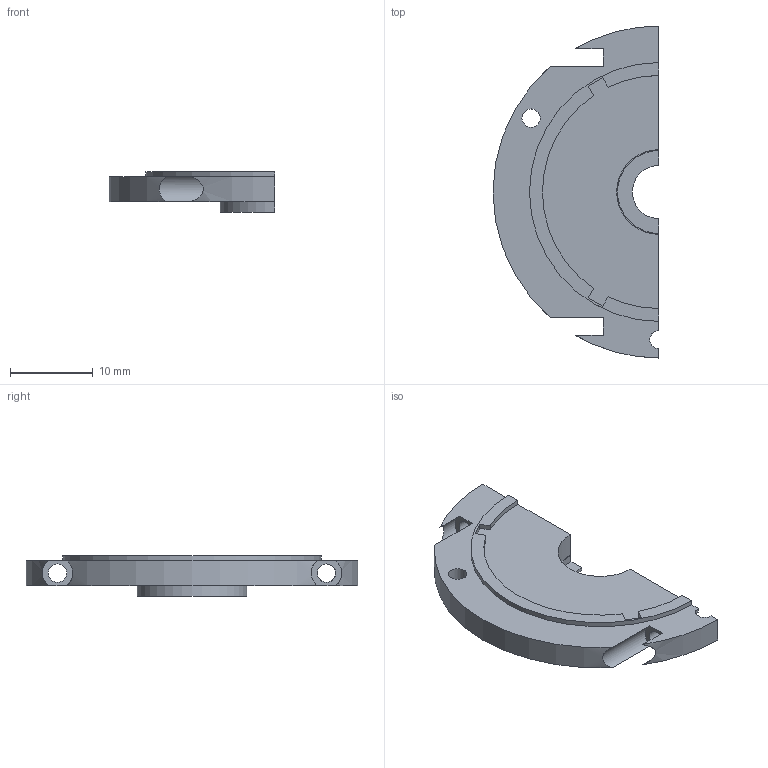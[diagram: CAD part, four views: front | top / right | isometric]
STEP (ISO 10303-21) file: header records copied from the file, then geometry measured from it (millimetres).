
FILE_DESCRIPTION(('Open CASCADE Model'),'2;1');
FILE_NAME('Open CASCADE Shape Model','2026-09-24T19:52:58',('Author'),( 'Open CASCADE'),'Open CASCADE STEP processor 7.8','Open CASCADE 7.8' ,'Unknown');
FILE_SCHEMA(('AUTOMOTIVE_DESIGN { 1 0 10303 214 1 1 1 1 }'));
Length unit declared in the file: millimetre
Products named in the file (1): Open CASCADE STEP translator 7.8 22
Bounding box: 20 x 40 x 4.9 mm (x, y, z)
Volume: 1687.1 mm3; surface area: 1757.5 mm2
Topology: 1 solids, 1 shells, 37 faces, 108 edges, 72 vertices
Faces by surface type: cylinder 19, plane 18
Full cylindrical faces by diameter (mm): 2.2 x3
Entity records: 3332 total; most frequent: CARTESIAN_POINT 1367, DIRECTION 304, ORIENTED_EDGE 216, PCURVE 216, DEFINITIONAL_REPRESENTATION 216, B_SPLINE_CURVE_WITH_KNOTS 129, LINE 125, VECTOR 125
